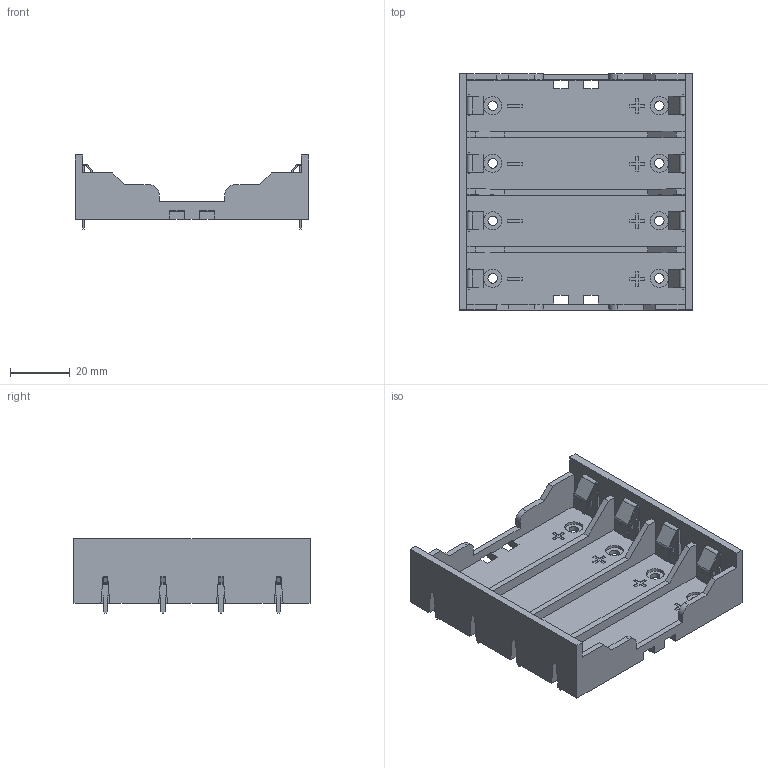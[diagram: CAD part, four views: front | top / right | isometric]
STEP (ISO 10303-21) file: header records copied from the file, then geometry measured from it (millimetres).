
FILE_DESCRIPTION(('FreeCAD Model'),'2;1');
FILE_NAME('Open CASCADE Shape Model','2022-11-10T08:52:47',(''),(''), 'Open CASCADE STEP processor 7.6','FreeCAD','Unknown');
FILE_SCHEMA(('CONFIG_CONTROL_DESIGN','SHAPE_APPEARANCE_LAYER_MIM'));
Length unit declared in the file: millimetre
Products named in the file (3): Body; Body002; Body003
Bounding box: 77.98 x 78.84 x 24.74 mm (x, y, z)
Volume: 27613.4 mm3; surface area: 28035.9 mm2
Topology: 9 solids, 9 shells, 578 faces, 1664 edges, 1104 vertices
Faces by surface type: plane 502, cylinder 76
Full cylindrical faces by diameter (mm): 1 x8, 3.2 x8, 6 x8
Entity records: 18960 total; most frequent: CARTESIAN_POINT 3347, ORIENTED_EDGE 3328, DIRECTION 2974, EDGE_CURVE 1664, LINE 1512, VECTOR 1512, VERTEX_POINT 1104, AXIS2_PLACEMENT_3D 731
